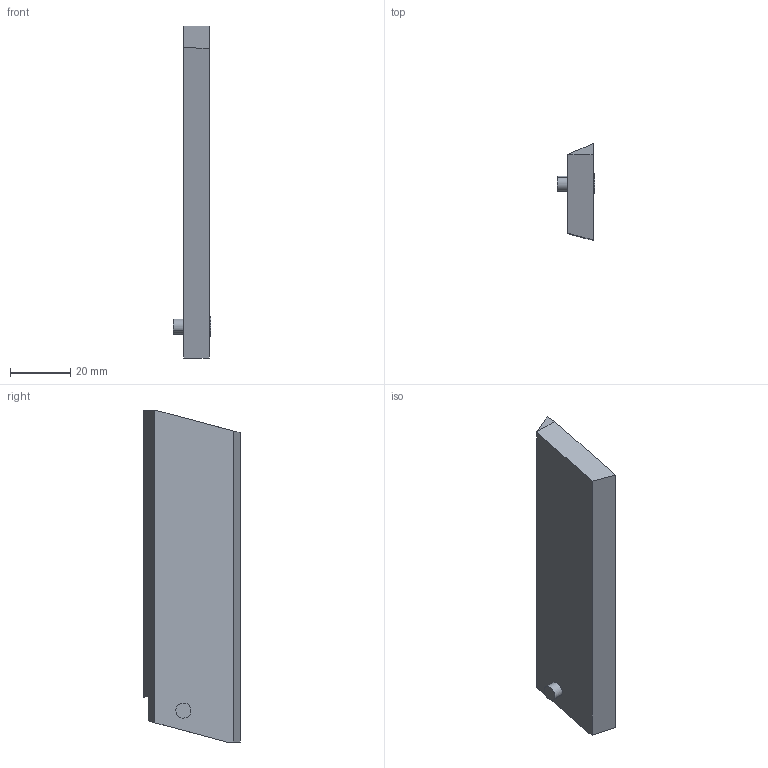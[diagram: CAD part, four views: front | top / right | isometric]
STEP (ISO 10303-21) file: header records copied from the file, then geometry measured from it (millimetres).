
FILE_DESCRIPTION(('CATIA V5 STEP Exchange'),'2;1');
FILE_NAME('I:\isr\design\admin8\users\hnany_a\2302301D.stp','2011-06-19T11:32:16+00:00',('none'),('none'),'CATIA Version 5 Release 19 SP 7 (IN-10)','CATIA V5 STEP AP214','none');
FILE_SCHEMA(('AUTOMOTIVE_DESIGN { 1 0 10303 214 1 1 1 1 }'));
Length unit declared in the file: millimetre
Products named in the file (1): 60797218_0  PCHBR 32-34L
Bounding box: 12.5 x 31.97 x 110 mm (x, y, z)
Volume: 24170.9 mm3; surface area: 8609.5 mm2
Topology: 1 solids, 1 shells, 31 faces, 77 edges, 51 vertices
Faces by surface type: plane 16, cylinder 13, cone 2
Entity records: 919 total; most frequent: CARTESIAN_POINT 159, ORIENTED_EDGE 154, DIRECTION 137, EDGE_CURVE 77, AXIS2_PLACEMENT_3D 59, VERTEX_POINT 51, VECTOR 49, LINE 49
